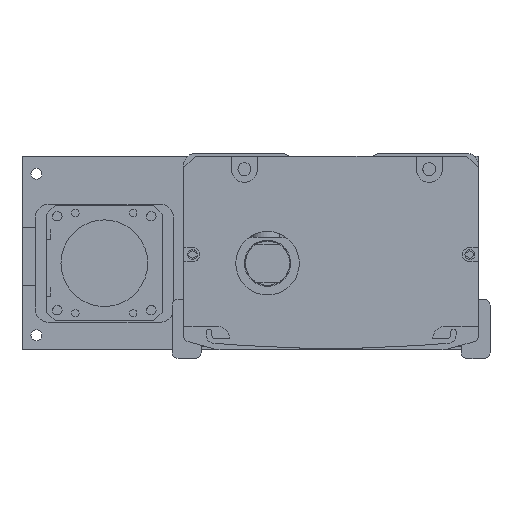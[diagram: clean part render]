
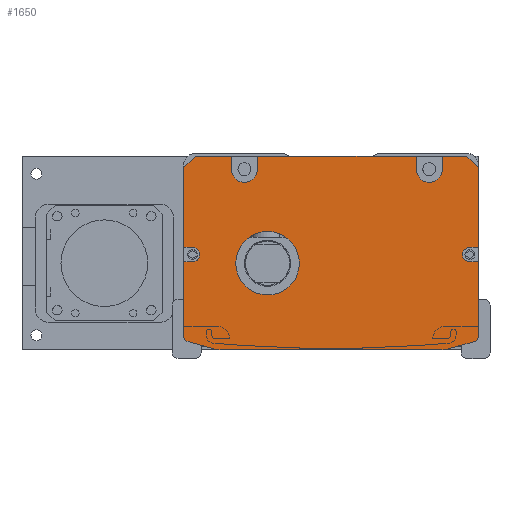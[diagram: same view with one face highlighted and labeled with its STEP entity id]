
A CAD part, front view. The second image highlights one B-rep face of the part: STEP entity #1650.
In plain terms, the highlighted planar face has unit normal (0, -1, 0).
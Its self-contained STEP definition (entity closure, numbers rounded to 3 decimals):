
#1650=ADVANCED_FACE('',(#4348,#4349),#2344,.F.);
#2344=PLANE('',#13833);
#2648=LINE('',#19323,#3453);
#2652=LINE('',#19331,#3457);
#2662=LINE('',#19352,#3467);
#2666=LINE('',#19360,#3471);
#2935=LINE('',#20353,#3740);
#2936=LINE('',#20355,#3741);
#2937=LINE('',#20357,#3742);
#2938=LINE('',#20361,#3743);
#2939=LINE('',#20363,#3744);
#2940=LINE('',#20365,#3745);
#2941=LINE('',#20369,#3746);
#2942=LINE('',#20371,#3747);
#2943=LINE('',#20373,#3748);
#2944=LINE('',#20374,#3749);
#2945=LINE('',#20378,#3750);
#2946=LINE('',#20381,#3751);
#2947=LINE('',#20385,#3752);
#2948=LINE('',#20389,#3753);
#2949=LINE('',#20392,#3754);
#2950=LINE('',#20396,#3755);
#3453=VECTOR('',#15129,1.);
#3457=VECTOR('',#15133,1.);
#3467=VECTOR('',#15145,1.);
#3471=VECTOR('',#15149,1.);
#3740=VECTOR('',#16214,1.);
#3741=VECTOR('',#16215,1.);
#3742=VECTOR('',#16216,1.);
#3743=VECTOR('',#16219,1.);
#3744=VECTOR('',#16220,1.);
#3745=VECTOR('',#16221,1.);
#3746=VECTOR('',#16224,1.);
#3747=VECTOR('',#16225,1.);
#3748=VECTOR('',#16226,1.);
#3749=VECTOR('',#16227,1.);
#3750=VECTOR('',#16230,1.);
#3751=VECTOR('',#16233,1.);
#3752=VECTOR('',#16236,1.);
#3753=VECTOR('',#16239,1.);
#3754=VECTOR('',#16242,1.);
#3755=VECTOR('',#16245,1.);
#4348=FACE_BOUND('',#5092,.T.);
#4349=FACE_BOUND('',#5093,.T.);
#5092=EDGE_LOOP('',(#7022,#7023,#7024,#7025,#7026,#7027,#7028,#7029,#7030,
#7031,#7032,#7033,#7034,#7035,#7036,#7037,#7038,#7039,#7040,#7041,#7042,
#7043,#7044,#7045,#7046,#7047,#7048,#7049));
#5093=EDGE_LOOP('',(#7050));
#7022=ORIENTED_EDGE('',*,*,#10986,.T.);
#7023=ORIENTED_EDGE('',*,*,#11470,.T.);
#7024=ORIENTED_EDGE('',*,*,#11471,.T.);
#7025=ORIENTED_EDGE('',*,*,#11472,.F.);
#7026=ORIENTED_EDGE('',*,*,#11473,.T.);
#7027=ORIENTED_EDGE('',*,*,#11474,.F.);
#7028=ORIENTED_EDGE('',*,*,#11475,.T.);
#7029=ORIENTED_EDGE('',*,*,#11476,.F.);
#7030=ORIENTED_EDGE('',*,*,#11477,.T.);
#7031=ORIENTED_EDGE('',*,*,#11478,.F.);
#7032=ORIENTED_EDGE('',*,*,#11479,.T.);
#7033=ORIENTED_EDGE('',*,*,#11480,.T.);
#7034=ORIENTED_EDGE('',*,*,#11004,.T.);
#7035=ORIENTED_EDGE('',*,*,#11481,.T.);
#7036=ORIENTED_EDGE('',*,*,#11482,.T.);
#7037=ORIENTED_EDGE('',*,*,#11483,.T.);
#7038=ORIENTED_EDGE('',*,*,#11000,.T.);
#7039=ORIENTED_EDGE('',*,*,#11484,.T.);
#7040=ORIENTED_EDGE('',*,*,#11485,.T.);
#7041=ORIENTED_EDGE('',*,*,#11486,.T.);
#7042=ORIENTED_EDGE('',*,*,#11487,.T.);
#7043=ORIENTED_EDGE('',*,*,#11488,.T.);
#7044=ORIENTED_EDGE('',*,*,#11489,.T.);
#7045=ORIENTED_EDGE('',*,*,#11490,.T.);
#7046=ORIENTED_EDGE('',*,*,#10990,.T.);
#7047=ORIENTED_EDGE('',*,*,#11491,.T.);
#7048=ORIENTED_EDGE('',*,*,#11492,.T.);
#7049=ORIENTED_EDGE('',*,*,#11493,.T.);
#7050=ORIENTED_EDGE('',*,*,#11494,.T.);
#9679=VERTEX_POINT('',#19322);
#9680=VERTEX_POINT('',#19324);
#9683=VERTEX_POINT('',#19330);
#9684=VERTEX_POINT('',#19332);
#9693=VERTEX_POINT('',#19351);
#9694=VERTEX_POINT('',#19353);
#9697=VERTEX_POINT('',#19359);
#9698=VERTEX_POINT('',#19361);
#10024=VERTEX_POINT('',#20354);
#10025=VERTEX_POINT('',#20356);
#10026=VERTEX_POINT('',#20358);
#10027=VERTEX_POINT('',#20360);
#10028=VERTEX_POINT('',#20362);
#10029=VERTEX_POINT('',#20364);
#10030=VERTEX_POINT('',#20366);
#10031=VERTEX_POINT('',#20368);
#10032=VERTEX_POINT('',#20370);
#10033=VERTEX_POINT('',#20372);
#10034=VERTEX_POINT('',#20375);
#10035=VERTEX_POINT('',#20377);
#10036=VERTEX_POINT('',#20380);
#10037=VERTEX_POINT('',#20382);
#10038=VERTEX_POINT('',#20384);
#10039=VERTEX_POINT('',#20386);
#10040=VERTEX_POINT('',#20388);
#10041=VERTEX_POINT('',#20390);
#10042=VERTEX_POINT('',#20393);
#10043=VERTEX_POINT('',#20395);
#10044=VERTEX_POINT('',#20398);
#10986=EDGE_CURVE('',#9680,#9679,#2648,.T.);
#10990=EDGE_CURVE('',#9684,#9683,#2652,.T.);
#11000=EDGE_CURVE('',#9694,#9693,#2662,.T.);
#11004=EDGE_CURVE('',#9698,#9697,#2666,.T.);
#11470=EDGE_CURVE('',#9679,#10024,#2935,.T.);
#11471=EDGE_CURVE('',#10024,#10025,#2936,.T.);
#11472=EDGE_CURVE('',#10026,#10025,#2937,.T.);
#11473=EDGE_CURVE('',#10026,#10027,#12884,.T.);
#11474=EDGE_CURVE('',#10028,#10027,#2938,.T.);
#11475=EDGE_CURVE('',#10028,#10029,#2939,.T.);
#11476=EDGE_CURVE('',#10030,#10029,#2940,.T.);
#11477=EDGE_CURVE('',#10030,#10031,#12885,.T.);
#11478=EDGE_CURVE('',#10032,#10031,#2941,.T.);
#11479=EDGE_CURVE('',#10032,#10033,#2942,.T.);
#11480=EDGE_CURVE('',#10033,#9698,#2943,.T.);
#11481=EDGE_CURVE('',#9697,#10034,#2944,.T.);
#11482=EDGE_CURVE('',#10034,#10035,#12886,.T.);
#11483=EDGE_CURVE('',#10035,#9694,#2945,.T.);
#11484=EDGE_CURVE('',#9693,#10036,#12887,.T.);
#11485=EDGE_CURVE('',#10036,#10037,#2946,.T.);
#11486=EDGE_CURVE('',#10037,#10038,#12888,.T.);
#11487=EDGE_CURVE('',#10038,#10039,#2947,.T.);
#11488=EDGE_CURVE('',#10039,#10040,#12889,.T.);
#11489=EDGE_CURVE('',#10040,#10041,#2948,.T.);
#11490=EDGE_CURVE('',#10041,#9684,#12890,.T.);
#11491=EDGE_CURVE('',#9683,#10042,#2949,.T.);
#11492=EDGE_CURVE('',#10042,#10043,#12891,.T.);
#11493=EDGE_CURVE('',#10043,#9680,#2950,.T.);
#11494=EDGE_CURVE('',#10044,#10044,#12892,.T.);
#12884=CIRCLE('',#13824,4.5);
#12885=CIRCLE('',#13825,4.5);
#12886=CIRCLE('',#13826,2.5);
#12887=CIRCLE('',#13827,2.);
#12888=CIRCLE('',#13828,10.);
#12889=CIRCLE('',#13829,10.);
#12890=CIRCLE('',#13830,2.);
#12891=CIRCLE('',#13831,2.5);
#12892=CIRCLE('',#13832,11.);
#13824=AXIS2_PLACEMENT_3D('',#20359,#16217,#16218);
#13825=AXIS2_PLACEMENT_3D('',#20367,#16222,#16223);
#13826=AXIS2_PLACEMENT_3D('',#20376,#16228,#16229);
#13827=AXIS2_PLACEMENT_3D('',#20379,#16231,#16232);
#13828=AXIS2_PLACEMENT_3D('',#20383,#16234,#16235);
#13829=AXIS2_PLACEMENT_3D('',#20387,#16237,#16238);
#13830=AXIS2_PLACEMENT_3D('',#20391,#16240,#16241);
#13831=AXIS2_PLACEMENT_3D('',#20394,#16243,#16244);
#13832=AXIS2_PLACEMENT_3D('',#20397,#16246,#16247);
#13833=AXIS2_PLACEMENT_3D('',#20399,#16248,#16249);
#15129=DIRECTION('',(0.,0.,1.));
#15133=DIRECTION('',(0.,0.,1.));
#15145=DIRECTION('',(0.,0.,-1.));
#15149=DIRECTION('',(0.,0.,-1.));
#16214=DIRECTION('',(-0.707,0.,0.707));
#16215=DIRECTION('',(-1.,0.,0.));
#16216=DIRECTION('',(0.,0.,1.));
#16217=DIRECTION('',(0.,1.,0.));
#16218=DIRECTION('',(0.,0.,1.));
#16219=DIRECTION('',(0.,0.,-1.));
#16220=DIRECTION('',(-1.,0.,0.));
#16221=DIRECTION('',(0.,0.,1.));
#16222=DIRECTION('',(0.,1.,0.));
#16223=DIRECTION('',(0.,0.,1.));
#16224=DIRECTION('',(0.,0.,-1.));
#16225=DIRECTION('',(-1.,0.,0.));
#16226=DIRECTION('',(-0.707,0.,-0.707));
#16227=DIRECTION('',(1.,0.,0.));
#16228=DIRECTION('',(0.,1.,0.));
#16229=DIRECTION('',(0.,0.,1.));
#16230=DIRECTION('',(-1.,0.,0.));
#16231=DIRECTION('',(0.,-1.,0.));
#16232=DIRECTION('',(0.,0.,1.));
#16233=DIRECTION('',(0.963,0.,-0.269));
#16234=DIRECTION('',(0.,-1.,0.));
#16235=DIRECTION('',(0.,0.,1.));
#16236=DIRECTION('',(1.,0.,0.));
#16237=DIRECTION('',(0.,-1.,0.));
#16238=DIRECTION('',(0.,0.,-1.));
#16239=DIRECTION('',(0.963,0.,0.269));
#16240=DIRECTION('',(0.,-1.,0.));
#16241=DIRECTION('',(0.,0.,-1.));
#16242=DIRECTION('',(-1.,0.,0.));
#16243=DIRECTION('',(0.,1.,0.));
#16244=DIRECTION('',(0.,0.,1.));
#16245=DIRECTION('',(1.,0.,0.));
#16246=DIRECTION('',(0.,1.,0.));
#16247=DIRECTION('',(0.,0.,1.));
#16248=DIRECTION('',(0.,1.,0.));
#16249=DIRECTION('',(1.,0.,0.));
#19322=CARTESIAN_POINT('',(47.808,-717.5,-5.));
#19323=CARTESIAN_POINT('',(47.808,-717.5,-1.));
#19324=CARTESIAN_POINT('',(47.808,-717.5,-32.5));
#19330=CARTESIAN_POINT('',(47.808,-717.5,-37.5));
#19331=CARTESIAN_POINT('',(47.808,-717.5,-1.));
#19332=CARTESIAN_POINT('',(47.808,-717.5,-63.212));
#19351=CARTESIAN_POINT('',(-54.192,-717.5,-63.212));
#19352=CARTESIAN_POINT('',(-54.192,-717.5,-62.));
#19353=CARTESIAN_POINT('',(-54.192,-717.5,-37.5));
#19359=CARTESIAN_POINT('',(-54.192,-717.5,-32.5));
#19360=CARTESIAN_POINT('',(-54.192,-717.5,-62.));
#19361=CARTESIAN_POINT('',(-54.192,-717.5,-5.));
#20353=CARTESIAN_POINT('',(43.808,-717.5,-1.));
#20354=CARTESIAN_POINT('',(43.808,-717.5,-1.));
#20355=CARTESIAN_POINT('',(-3.192,-717.5,-1.));
#20356=CARTESIAN_POINT('',(35.308,-717.5,-1.));
#20357=CARTESIAN_POINT('',(35.308,-717.5,-1.));
#20358=CARTESIAN_POINT('',(35.308,-717.5,-5.5));
#20359=CARTESIAN_POINT('',(30.808,-717.5,-5.5));
#20360=CARTESIAN_POINT('',(26.308,-717.5,-5.5));
#20361=CARTESIAN_POINT('',(26.308,-717.5,-1.));
#20362=CARTESIAN_POINT('',(26.308,-717.5,-1.));
#20363=CARTESIAN_POINT('',(-54.192,-717.5,-1.));
#20364=CARTESIAN_POINT('',(-28.692,-717.5,-1.));
#20365=CARTESIAN_POINT('',(-28.692,-717.5,-3.5));
#20366=CARTESIAN_POINT('',(-28.692,-717.5,-5.5));
#20367=CARTESIAN_POINT('',(-33.192,-717.5,-5.5));
#20368=CARTESIAN_POINT('',(-37.692,-717.5,-5.5));
#20369=CARTESIAN_POINT('',(-37.692,-717.5,-1.));
#20370=CARTESIAN_POINT('',(-37.692,-717.5,-1.));
#20371=CARTESIAN_POINT('',(-54.192,-717.5,-1.));
#20372=CARTESIAN_POINT('',(-50.192,-717.5,-1.));
#20373=CARTESIAN_POINT('',(-54.192,-717.5,-5.));
#20374=CARTESIAN_POINT('',(-3.192,-717.5,-32.5));
#20375=CARTESIAN_POINT('',(-51.192,-717.5,-32.5));
#20376=CARTESIAN_POINT('',(-51.192,-717.5,-35.));
#20377=CARTESIAN_POINT('',(-51.192,-717.5,-37.5));
#20378=CARTESIAN_POINT('',(-3.192,-717.5,-37.5));
#20379=CARTESIAN_POINT('',(-52.192,-717.5,-63.212));
#20380=CARTESIAN_POINT('',(-52.731,-717.5,-65.138));
#20381=CARTESIAN_POINT('',(-55.807,-717.5,-64.279));
#20382=CARTESIAN_POINT('',(-43.809,-717.5,-67.631));
#20383=CARTESIAN_POINT('',(-41.118,-717.5,-58.));
#20384=CARTESIAN_POINT('',(-41.118,-717.5,-68.));
#20385=CARTESIAN_POINT('',(-54.692,-717.5,-68.));
#20386=CARTESIAN_POINT('',(34.733,-717.5,-68.));
#20387=CARTESIAN_POINT('',(34.733,-717.5,-58.));
#20388=CARTESIAN_POINT('',(37.424,-717.5,-67.631));
#20389=CARTESIAN_POINT('',(49.422,-717.5,-64.279));
#20390=CARTESIAN_POINT('',(46.346,-717.5,-65.138));
#20391=CARTESIAN_POINT('',(45.808,-717.5,-63.212));
#20392=CARTESIAN_POINT('',(-3.192,-717.5,-37.5));
#20393=CARTESIAN_POINT('',(44.808,-717.5,-37.5));
#20394=CARTESIAN_POINT('',(44.808,-717.5,-35.));
#20395=CARTESIAN_POINT('',(44.808,-717.5,-32.5));
#20396=CARTESIAN_POINT('',(-3.192,-717.5,-32.5));
#20397=CARTESIAN_POINT('',(-25.192,-717.5,-38.));
#20398=CARTESIAN_POINT('',(-25.192,-717.5,-27.));
#20399=CARTESIAN_POINT('',(-3.192,-717.5,-1.));
